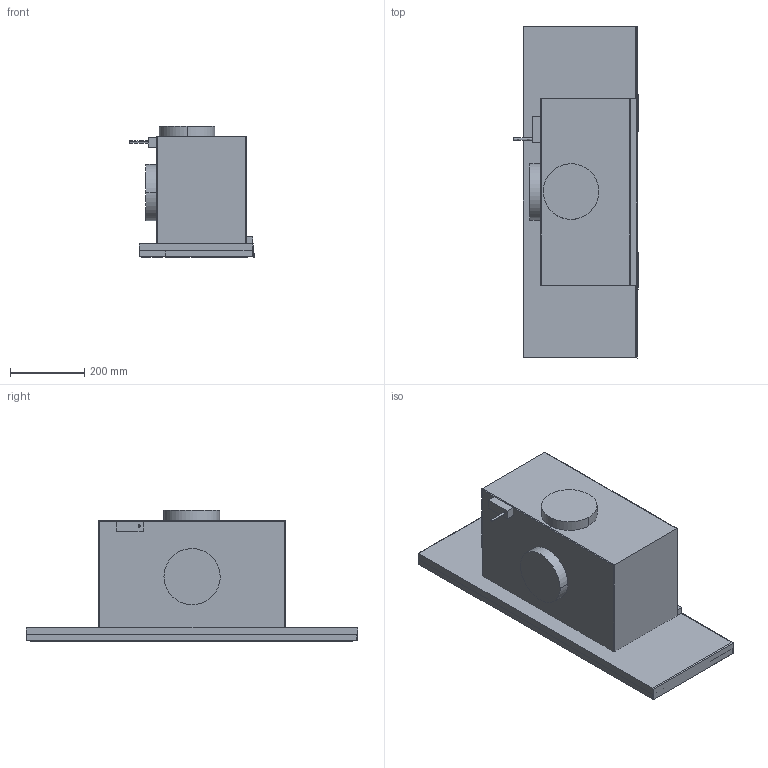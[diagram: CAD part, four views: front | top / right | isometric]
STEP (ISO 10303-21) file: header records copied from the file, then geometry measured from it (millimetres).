
FILE_DESCRIPTION(/* description */ (''),/* implementation_level */ '2;1');
FILE_NAME(/* name */ 'DA3690_EDST',/* time_stamp */ '2015-03-05T14:54:46+01:00',/* author */ (''),/* organization */ (''),/* preprocessor_version */ 'ST-DEVELOPER v10',/* originating_system */ '',/* authorisation */ '');
FILE_SCHEMA (('AUTOMOTIVE_DESIGN_CC2'));
Length unit declared in the file: millimetre
Products named in the file (1): 1
Bounding box: 334.84 x 893 x 354.16 mm (x, y, z)
Volume: 46244045.8 mm3; surface area: 2181147.7 mm2
Topology: 18 solids, 18 shells, 113 faces, 229 edges, 148 vertices
Faces by surface type: bspline 113
Entity records: 3192 total; most frequent: CARTESIAN_POINT 1573, ORIENTED_EDGE 450, EDGE_CURVE 225, B_SPLINE_CURVE_WITH_KNOTS 165, VERTEX_POINT 148, ADVANCED_FACE 113, FACE_OUTER_BOUND 113, EDGE_LOOP 113
